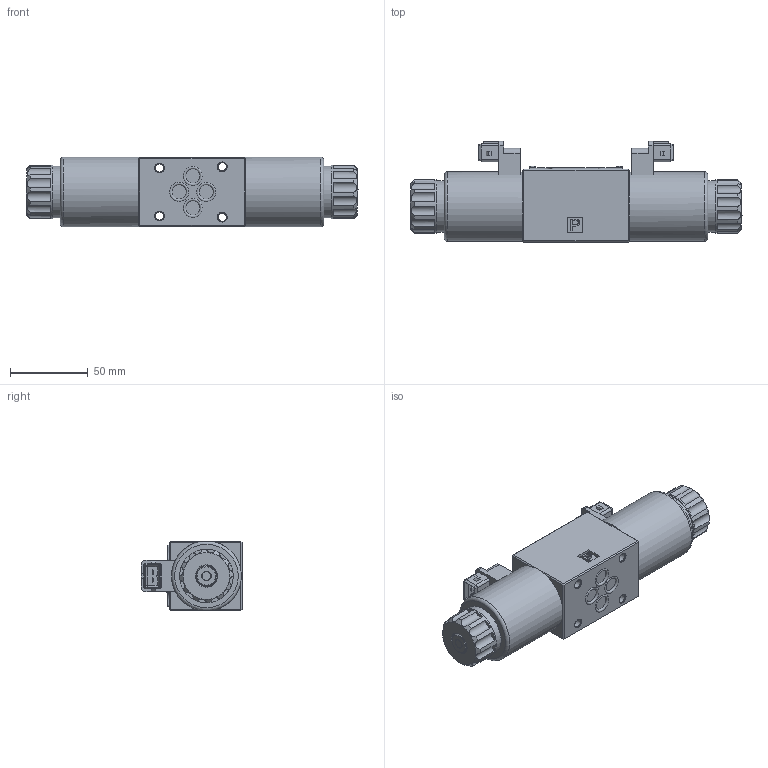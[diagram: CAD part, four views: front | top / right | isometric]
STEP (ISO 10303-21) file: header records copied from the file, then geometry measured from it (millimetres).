
FILE_DESCRIPTION(/* description */ (''),/* implementation_level */ '2;1');
FILE_NAME(/* name */ '4WE6...-6XJ安普插头电磁阀（三位阀）.stp',/* time_stamp */ '2025-02-08T08:52:52+08:00',/* author */ (''),/* organization */ (''),/* preprocessor_version */ 'ST-DEVELOPER v16.7',/* originating_system */ 'SIEMENS PLM Software NX 12.0',/* authorisation */ '');
FILE_SCHEMA (('AUTOMOTIVE_DESIGN { 1 0 10303 214 3 1 1 1 }'));
Length unit declared in the file: millimetre
Products named in the file (1): 4WE6...-6XJ安普插头电磁阀（三位阀）
Bounding box: 214.2 x 65.38 x 44.91 mm (x, y, z)
Volume: 263105 mm3; surface area: 116369.9 mm2
Topology: 65 solids, 71 shells, 1376 faces, 3398 edges, 2200 vertices
Faces by surface type: plane 898, cylinder 268, cone 90, torus 49, extrusion 41, bspline 20, sphere 6, revolution 4
Full cylindrical faces by diameter (mm): 1.5 x2, 1.8 x4, 2 x6, 2.2 x2, 2.5 x2, 3 x4, 4 x2, 4.8 x2, 5.3 x4, 6 x6, 6.7 x2, 8.1 x2, 8.7 x2, 9.4 x4, 10 x2, 11 x2, 12 x2, 12.2 x2, 12.4 x2, 14.3 x2, 16 x4, 16.4 x2, 17.3 x4, 18 x2, 18.8 x2, 19 x6, 20 x6, 23 x8, 23.3 x2, 23.7 x2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
Entity records: 45886 total; most frequent: CARTESIAN_POINT 12763, ORIENTED_EDGE 6212, DIRECTION 6169, EDGE_CURVE 3106, VECTOR 2233, LINE 2192, VERTEX_POINT 2149, AXIS2_PLACEMENT_3D 1966
